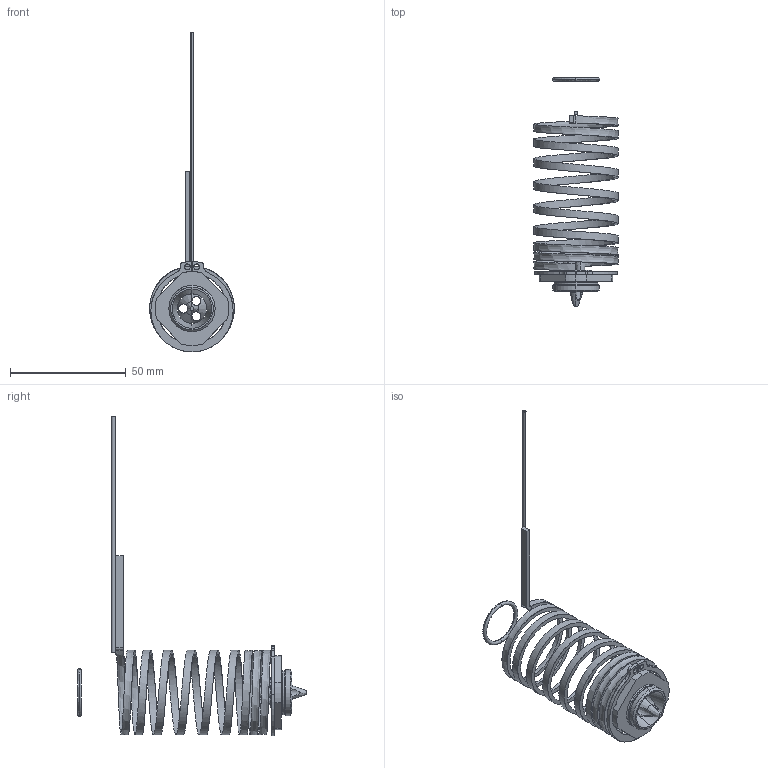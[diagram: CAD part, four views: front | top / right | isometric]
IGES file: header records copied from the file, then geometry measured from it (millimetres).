
Start section: SolidWorks IGES file using analytic representation for surfaces
Global section: file name: C:\Documents and Settings\ws-20\Desktop\TEM\UGEP6003-M-A-1 [Øf-1.6 ØC-15].IGS; native system: SolidWorks 2012; preprocessor: SolidWorks 2012; author: ws-20; date: 120427.092545; units: millimetre
Bounding box: 36.6 x 99.05 x 138.4 mm (x, y, z)
Surface area: 9456.5 mm2 (no closed solid volume)
Topology: 0 solids, 0 shells, 71 faces, 1098 edges, 1098 vertices
Faces by surface type: revolution 42, bspline 29
